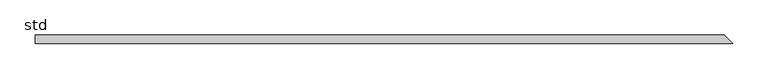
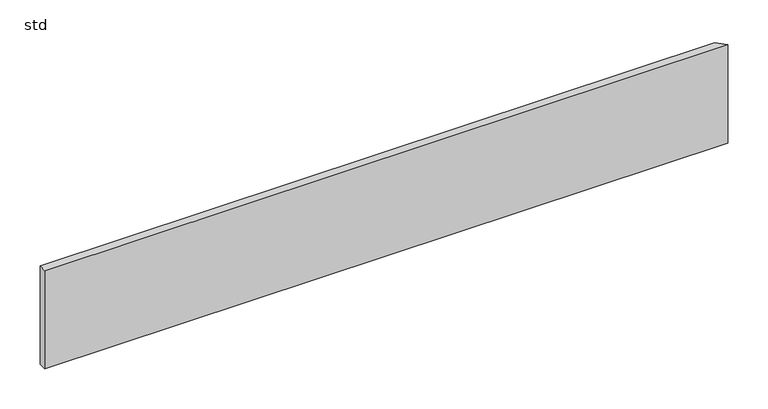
"""IFC4 building model written with IfcOpenShell, lengths in millimetres: proxy geometry, 300_41_ISR_lb_multiplex : std."""

from ifc_helpers import new_model, si_unit, origin, origin_with_axes, place, context, project, spatial, polyline, outline, extrude, source, transform, mapped, element, save


def std_465226a6(model_context):
    return source(origin(), model_context, "Body", "SweptSolid", [
        extrude(outline(polyline([(-485.0, 0.0), (-485.0, 12.0), (488.0, 12.0), (500.0, 0.0), (-485.0, 0.0)])), origin_with_axes(), (0.0, 0.0, 1.0), 150.0),
    ])


if __name__ == "__main__":
    model = new_model("IFC4")
    model_context = context("Model", 3, world=origin())
    ifc_project = project(units=[si_unit("LENGTHUNIT", "METRE", prefix="MILLI")], contexts=[model_context])
    site = spatial("IfcSite", under=ifc_project)
    building = spatial("IfcBuilding", under=site)
    placement = place(None, origin())
    std_shape = std_465226a6(model_context)
    element("IfcBuildingElementProxy", 1, Name="300_41_ISR_lb_multiplex : std", ObjectType="300_41_ISR_lb_multiplex : std", at=placement, inside=building, context=model_context, shape_type="MappedRepresentation", body=[
        mapped(std_shape, transform((0.0, 0.0, 0.0), x_axis=(1.0, 0.0, 0.0), y_axis=(0.0, 1.0, 0.0), z_axis=(0.0, 0.0, 1.0))),
    ])
    save(model, "model.ifc")
